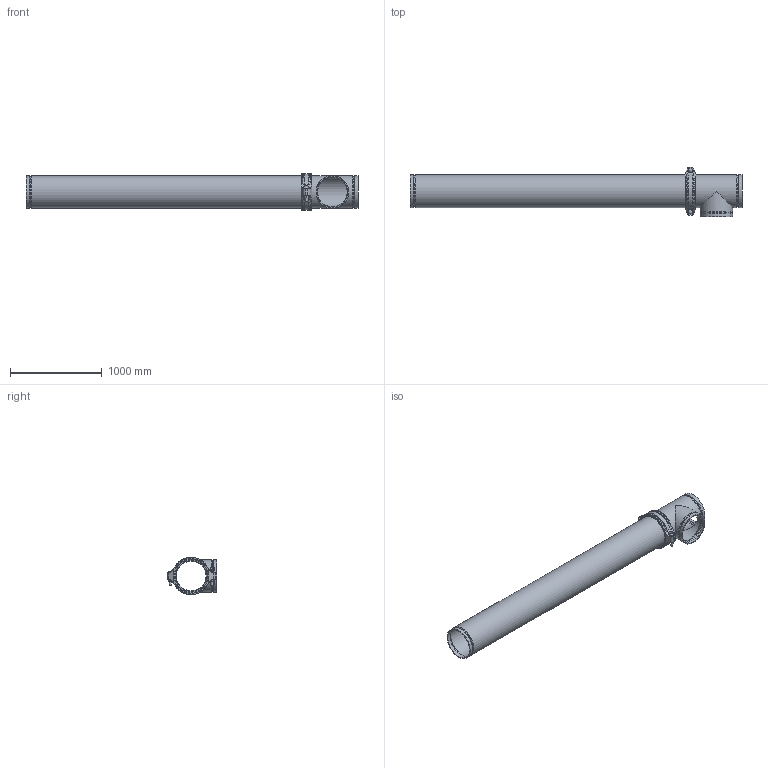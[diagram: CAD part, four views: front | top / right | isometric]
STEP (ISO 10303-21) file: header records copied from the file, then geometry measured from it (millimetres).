
FILE_DESCRIPTION(/* description */ ('VIC AGS LONG RUN FITTING No WR25 (AGS)','CAx-IF Rec.Pracs.---Representation and Presentation of Product Manufacturing Information (PMI)---4.0---2014-10-13'),/* implementation_level */ '2;1');
FILE_NAME(/* name */ 'C:\Users\kkamble\AppData\Roaming\Autodesk\ApplicationPlugins\Back Up\Victaulic_AGS_Long Run Fittings_No WR25 (AGS)\Victaulic_AGS_Long Run Fittings_No WR25 (AGS)_14 (350).stp',/* time_stamp */ '2020-10-07T03:12:14+06:00',/* author */ ('kkamble'),/* organization */ ('Victaulic'),/* preprocessor_version */ 'ST-DEVELOPER v17.2',/* originating_system */ 'Autodesk Inventor 2019',/* authorisation */ '');
FILE_SCHEMA (('FEATURE_BASED_PROCESS_PLANNING','AP242_MANAGED_MODEL_BASED_3D_ENGINEERING_MIM_LF { 1 0 10303 442 1 1 4 }'));
Length unit declared in the file: inch
Products named in the file (4): WR25-14.0; WR25-14.0_1; W77-14.0; W20-14.0
Assembly tree (3 placements, depth 2):
  WR25-14.0
    WR25-14.0_1
    W77-14.0
    W20-14.0
Bounding box: 3614.67 x 541.4 x 406.36 mm (x, y, z)
Volume: 42139081.4 mm3; surface area: 8506930.3 mm2
Topology: 3 solids, 5 shells, 340 faces, 1013 edges, 697 vertices
Faces by surface type: cylinder 161, plane 108, torus 56, cone 13, sphere 2
Full cylindrical faces by diameter (mm): 25.4 x4, 42.85 x2, 323.85 x3, 330.2 x1, 336.55 x6, 342.9 x5, 355.6 x10
Entity records: 13796 total; most frequent: CARTESIAN_POINT 4007, ORIENTED_EDGE 2026, DIRECTION 1956, EDGE_CURVE 1013, AXIS2_PLACEMENT_3D 788, VERTEX_POINT 697, CIRCLE 431, LINE 380
